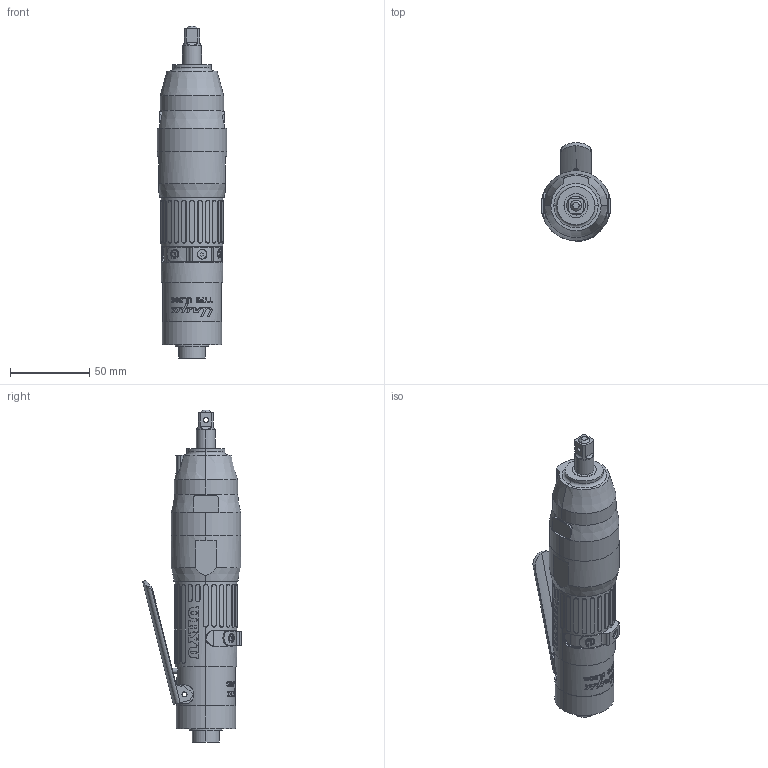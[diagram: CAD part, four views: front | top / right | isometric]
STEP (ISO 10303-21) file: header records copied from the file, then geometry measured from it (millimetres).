
FILE_DESCRIPTION (( 'STEP AP203' ), '1' );
FILE_NAME ('UL50S.step', '2006-01-30T07:46:12', ( '山田　善嗣' ), ( 'TECH' ), 'SwSTEP 2.0', 'SolidWorks 2004073', '' );
FILE_SCHEMA (( 'CONFIG_CONTROL_DESIGN' ));
Length unit declared in the file: millimetre
Products named in the file (8): 1060258_UL50S_蹬怮椔; 1434543_UL50S_蹬怮椔; UL50S; 1612123_UL50S_蹬怮椔; 9702210_UL50S_蹬怮椔; 1961077_UL50S_蹬怮椔; 1434393_UL50S_蹬怮椔; 1288428_UL50S_蹬怮椔
Assembly tree (7 placements, depth 2):
  UL50S
    1060258_UL50S_蹬怮椔
    1434393_UL50S_蹬怮椔
    9702210_UL50S_蹬怮椔
    1612123_UL50S_蹬怮椔
    1961077_UL50S_蹬怮椔
    1288428_UL50S_蹬怮椔
    1434543_UL50S_蹬怮椔
Bounding box: 44 x 62.33 x 209.5 mm (x, y, z)
Volume: 222867.3 mm3; surface area: 49024.7 mm2
Topology: 7 solids, 7 shells, 750 faces, 1996 edges, 1325 vertices
Faces by surface type: plane 385, cylinder 275, bspline 76, cone 8, torus 4, sphere 2
Entity records: 32231 total; most frequent: CARTESIAN_POINT 13815, ORIENTED_EDGE 3992, DIRECTION 3151, EDGE_CURVE 1996, VERTEX_POINT 1325, AXIS2_PLACEMENT_3D 1071, VECTOR 1009, LINE 1009
